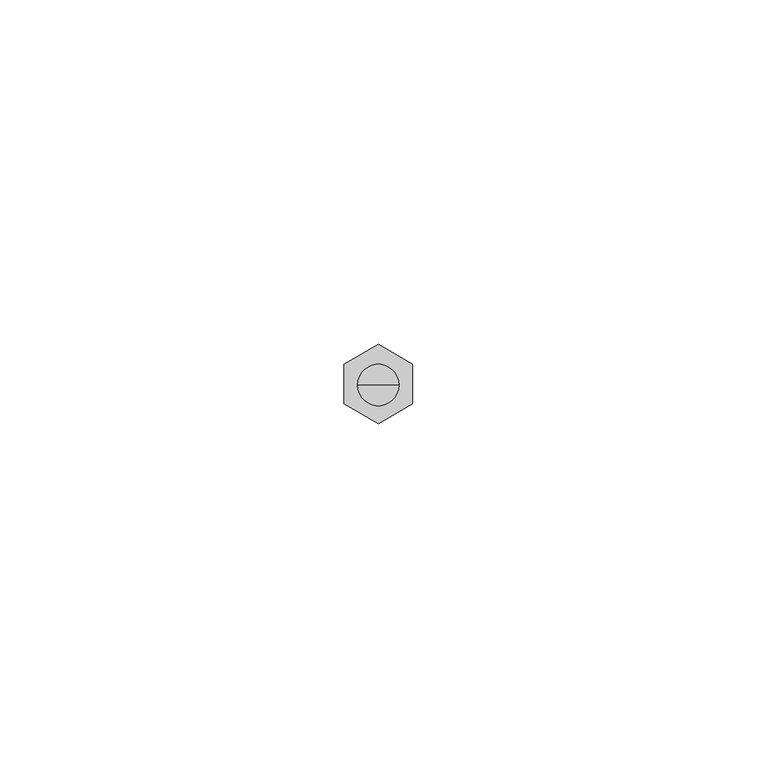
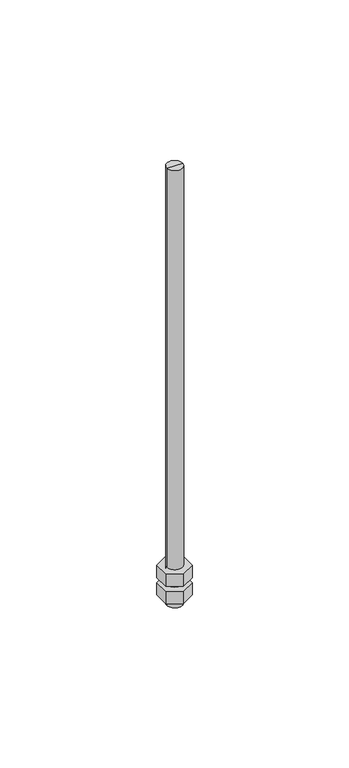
"""IFC4 building model written with IfcOpenShell, lengths in millimetres: proxy geometry, durlum_threaded_rod_M6 : durlum_threaded_rod_M6."""

from ifc_helpers import new_model, si_unit, frame, origin, origin_with_axes, place, context, project, spatial, polyline, circle_curve, outline, extrude, source, transform, mapped, element, save
from ifc_brep_helpers import plane_surface, cylinder_surface, advanced_brep


def generic_models_84546a59(model_context):
    return source(origin(), model_context, "Body", "SolidModel", [
        extrude(outline(polyline([(5.0, 3.0421914), (5.0, -2.7313113), (0.0, -5.6180626), (-5.0, -2.7313113), (-5.0, 3.0421914), (0.0, 5.9289428), (5.0, 3.0421914)])), frame((0.0, 0.0, -7.0), z_axis=(0.0, 0.0, 1.0), x_axis=(1.0, 0.0, 0.0)), (0.0, 0.0, 1.0), 5.0),
        extrude(outline(polyline([(5.0, 3.0421914), (5.0, -2.7313113), (0.0, -5.6180626), (-5.0, -2.7313113), (-5.0, 3.0421914), (0.0, 5.9289428), (5.0, 3.0421914)])), origin_with_axes(), (0.0, 0.0, 1.0), 5.0),
        advanced_brep(
        [(-3.0, 0.0, 165.0), (3.0, 0.0, 165.0), (3.0, 0.0, -10.0), (-3.0, 0.0, -10.0), (0.0, 0.0, 165.0), (0.0, 0.0, -10.0)],
        [
            (0, 1, circle_curve(frame((0.0, 0.0, 165.0), z_axis=(0.0, 0.0, -1.0), x_axis=(1.0, 0.0, 0.0)), 3.0)),
            (1, 2),
            (2, 3, circle_curve(frame((0.0, 0.0, -10.0), z_axis=(0.0, 0.0, 1.0), x_axis=(1.0, 0.0, 0.0)), 3.0)),
            (3, 0),
            (1, 0, circle_curve(frame((0.0, 0.0, 165.0), z_axis=(0.0, 0.0, -1.0), x_axis=(1.0, 0.0, 0.0)), 3.0)),
            (3, 2, circle_curve(frame((0.0, 0.0, -10.0), z_axis=(0.0, 0.0, 1.0), x_axis=(1.0, 0.0, 0.0)), 3.0)),
            (4, 1),
            (0, 4),
            (2, 5),
            (5, 3),
        ],
        [
            cylinder_surface(frame((0.0, 0.0, -675.0), z_axis=(0.0, 0.0, 1.0), x_axis=(1.0, 0.0, 0.0)), 3.0),
            plane_surface(frame((0.0, 0.0, 165.0), z_axis=(0.0, 0.0, 1.0), x_axis=(1.0, 0.0, 0.0))),
            plane_surface(frame((0.0, 0.0, -10.0), z_axis=(0.0, 0.0, -1.0), x_axis=(1.0, 0.0, 0.0))),
        ],
        [
            (0, [[1, 2, 3, 4]]),
            (0, [[5, -4, 6, -2]]),
            (1, [[7, -1, 8]]),
            (1, [[-8, -5, -7]]),
            (2, [[-3, 9, 10]]),
            (2, [[-6, -10, -9]]),
        ],
    ),
    ])


if __name__ == "__main__":
    model = new_model("IFC4")
    model_context = context("Model", 3, world=origin())
    ifc_project = project(units=[si_unit("LENGTHUNIT", "METRE", prefix="MILLI")], contexts=[model_context])
    site = spatial("IfcSite", under=ifc_project)
    building = spatial("IfcBuilding", under=site)
    placement = place(None, origin())
    generic_models_shape = generic_models_84546a59(model_context)
    element("IfcBuildingElementProxy", 1, Name="durlum_threaded_rod_M6 : durlum_threaded_rod_M6", ObjectType="durlum_threaded_rod_M6 : durlum_threaded_rod_M6", at=placement, inside=building, context=model_context, shape_type="MappedRepresentation", body=[
        mapped(generic_models_shape, transform((0.0, 0.0, 0.0), x_axis=(1.0, 0.0, 0.0), y_axis=(0.0, 1.0, 0.0), z_axis=(0.0, 0.0, 1.0))),
    ])
    save(model, "model.ifc")
